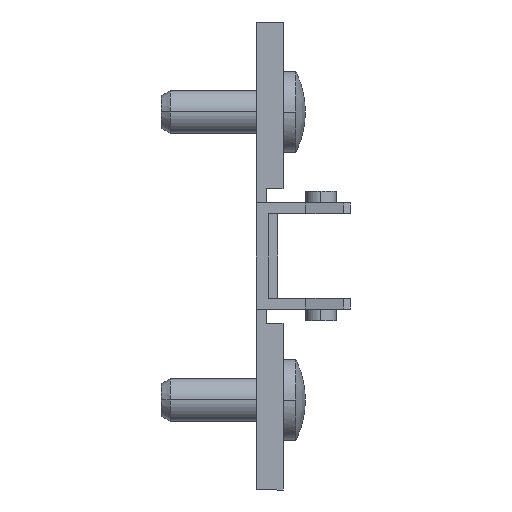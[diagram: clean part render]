
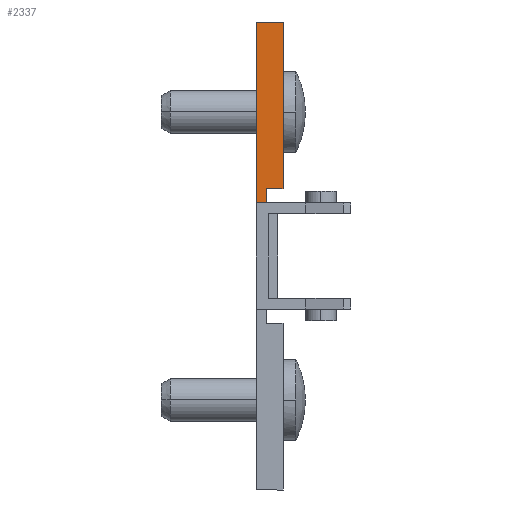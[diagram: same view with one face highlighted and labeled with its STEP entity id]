
A CAD part, front view. The second image highlights one B-rep face of the part: STEP entity #2337.
In plain terms, the highlighted planar face has unit normal (0, -1, 0).
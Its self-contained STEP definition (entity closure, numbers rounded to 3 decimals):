
#59 = VECTOR ( 'NONE', #1673, 1000. ) ;
#64 = LINE ( 'NONE', #2268, #59 ) ;
#71 = VECTOR ( 'NONE', #2270, 1000. ) ;
#73 = LINE ( 'NONE', #2277, #71 ) ;
#78 = VECTOR ( 'NONE', #2276, 1000. ) ;
#80 = LINE ( 'NONE', #2285, #78 ) ;
#284 = VECTOR ( 'NONE', #2068, 1000. ) ;
#291 = LINE ( 'NONE', #2077, #284 ) ;
#479 = ORIENTED_EDGE ( 'NONE', *, *, #1648, .F. ) ;
#480 = ORIENTED_EDGE ( 'NONE', *, *, #1268, .F. ) ;
#481 = ORIENTED_EDGE ( 'NONE', *, *, #1400, .F. ) ;
#483 = ORIENTED_EDGE ( 'NONE', *, *, #1395, .F. ) ;
#484 = ORIENTED_EDGE ( 'NONE', *, *, #1406, .F. ) ;
#485 = ORIENTED_EDGE ( 'NONE', *, *, #1654, .F. ) ;
#1180 = EDGE_LOOP ( 'NONE', ( #479, #480, #481, #483, #484, #485 ) ) ;
#1268 = EDGE_CURVE ( 'NONE', #1825, #1868, #291, .T. ) ;
#1395 = EDGE_CURVE ( 'NONE', #1844, #1831, #80, .T. ) ;
#1400 = EDGE_CURVE ( 'NONE', #1831, #1825, #73, .T. ) ;
#1406 = EDGE_CURVE ( 'NONE', #1952, #1844, #64, .T. ) ;
#1647 = AXIS2_PLACEMENT_3D ( 'NONE', #3224, #3214, #3215 ) ;
#1648 = EDGE_CURVE ( 'NONE', #1868, #1913, #2665, .T. ) ;
#1654 = EDGE_CURVE ( 'NONE', #1913, #1952, #2776, .T. ) ;
#1673 = DIRECTION ( 'NONE',  ( 0., 0., -1. ) ) ;
#1825 = VERTEX_POINT ( 'NONE', #3043 ) ;
#1831 = VERTEX_POINT ( 'NONE', #3035 ) ;
#1844 = VERTEX_POINT ( 'NONE', #3110 ) ;
#1868 = VERTEX_POINT ( 'NONE', #3092 ) ;
#1913 = VERTEX_POINT ( 'NONE', #3129 ) ;
#1952 = VERTEX_POINT ( 'NONE', #3169 ) ;
#2068 = DIRECTION ( 'NONE',  ( -1., 0., 0. ) ) ;
#2077 = CARTESIAN_POINT ( 'NONE',  ( 0., -9., 5.9 ) ) ;
#2268 = CARTESIAN_POINT ( 'NONE',  ( 3., -9., 26. ) ) ;
#2270 = DIRECTION ( 'NONE',  ( 0., 0., -1. ) ) ;
#2276 = DIRECTION ( 'NONE',  ( -1., 0., 0. ) ) ;
#2277 = CARTESIAN_POINT ( 'NONE',  ( 1.2, -9., 7.5 ) ) ;
#2285 = CARTESIAN_POINT ( 'NONE',  ( 3., -9., 7.5 ) ) ;
#2337 = ADVANCED_FACE ( 'NONE', ( #2732 ), #3223, .F. ) ;
#2665 = LINE ( 'NONE', #3005, #2771 ) ;
#2676 = VECTOR ( 'NONE', #2997, 1000. ) ;
#2732 = FACE_OUTER_BOUND ( 'NONE', #1180, .T. ) ;
#2771 = VECTOR ( 'NONE', #3006, 1000. ) ;
#2776 = LINE ( 'NONE', #2996, #2676 ) ;
#2996 = CARTESIAN_POINT ( 'NONE',  ( 0., -9., 26. ) ) ;
#2997 = DIRECTION ( 'NONE',  ( 1., 0., 0. ) ) ;
#3005 = CARTESIAN_POINT ( 'NONE',  ( 0., -9., 5. ) ) ;
#3006 = DIRECTION ( 'NONE',  ( 0., 0., 1. ) ) ;
#3035 = CARTESIAN_POINT ( 'NONE',  ( 1.2, -9., 7.5 ) ) ;
#3043 = CARTESIAN_POINT ( 'NONE',  ( 1.2, -9., 5.9 ) ) ;
#3092 = CARTESIAN_POINT ( 'NONE',  ( 0., -9., 5.9 ) ) ;
#3110 = CARTESIAN_POINT ( 'NONE',  ( 3., -9., 7.5 ) ) ;
#3129 = CARTESIAN_POINT ( 'NONE',  ( 0., -9., 26. ) ) ;
#3169 = CARTESIAN_POINT ( 'NONE',  ( 3., -9., 26. ) ) ;
#3214 = DIRECTION ( 'NONE',  ( 0., 1., 0. ) ) ;
#3215 = DIRECTION ( 'NONE',  ( 0., 0., 1. ) ) ;
#3223 = PLANE ( 'NONE',  #1647 ) ;
#3224 = CARTESIAN_POINT ( 'NONE',  ( 0., -9., 5. ) ) ;
